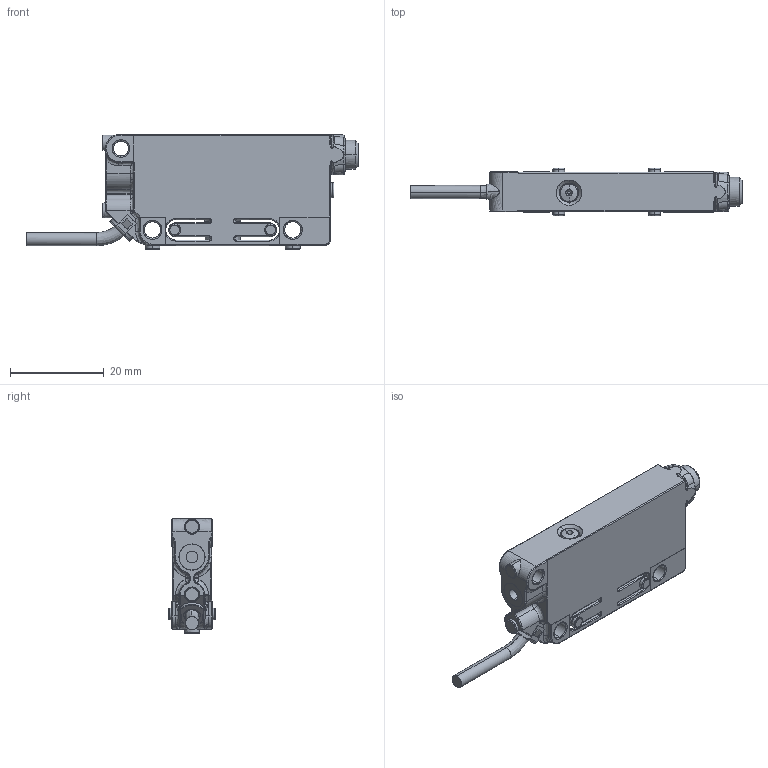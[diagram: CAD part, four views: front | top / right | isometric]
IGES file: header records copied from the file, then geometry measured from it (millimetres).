
Start section: Comment
Global section: file name: UxCK 09.igs; native system:  By UGS Corp.; preprocessor: XPlus GENERIC/IGES 3.0; author: Author; organization: Title; date: 20090424.104220; units: millimetre
Bounding box: 71.01 x 10.2 x 24.5 mm (x, y, z)
Surface area: 4607.7 mm2 (no closed solid volume)
Topology: 0 solids, 0 shells, 533 faces, 2751 edges, 2738 vertices
Faces by surface type: bspline 533
